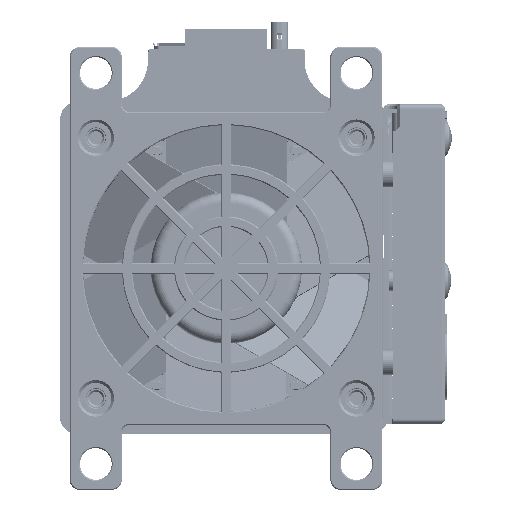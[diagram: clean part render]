
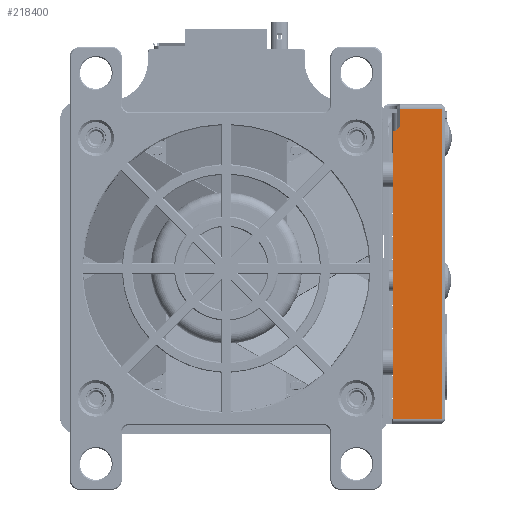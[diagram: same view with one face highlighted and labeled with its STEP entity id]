
A CAD part, left-side view. The second image highlights one B-rep face of the part: STEP entity #218400.
In plain terms, the highlighted planar face has unit normal (-1, 0, 0) as drawn and (0, 0, 1) by its records, which use the part's own axes.
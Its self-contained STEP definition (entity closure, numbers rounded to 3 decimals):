
#14535=PLANE('',#242739);
#27348=FACE_OUTER_BOUND('',#41255,.T.);
#41255=EDGE_LOOP('',(#196530,#196531,#196532,#196533,#196534,#196535,#196536));
#57751=LINE('',#437039,#74454);
#57752=LINE('',#437041,#74455);
#57753=LINE('',#437043,#74456);
#57754=LINE('',#437045,#74457);
#57755=LINE('',#437047,#74458);
#57756=LINE('',#437049,#74459);
#57757=LINE('',#437050,#74460);
#74454=VECTOR('',#305692,10.);
#74455=VECTOR('',#305693,10.);
#74456=VECTOR('',#305694,10.);
#74457=VECTOR('',#305695,10.);
#74458=VECTOR('',#305696,10.);
#74459=VECTOR('',#305697,10.);
#74460=VECTOR('',#305698,10.);
#104082=VERTEX_POINT('',#437037);
#104083=VERTEX_POINT('',#437038);
#104084=VERTEX_POINT('',#437040);
#104085=VERTEX_POINT('',#437042);
#104086=VERTEX_POINT('',#437044);
#104087=VERTEX_POINT('',#437046);
#104088=VERTEX_POINT('',#437048);
#135144=EDGE_CURVE('',#104082,#104083,#57751,.T.);
#135145=EDGE_CURVE('',#104084,#104082,#57752,.T.);
#135146=EDGE_CURVE('',#104085,#104084,#57753,.T.);
#135147=EDGE_CURVE('',#104086,#104085,#57754,.T.);
#135148=EDGE_CURVE('',#104087,#104086,#57755,.T.);
#135149=EDGE_CURVE('',#104088,#104087,#57756,.T.);
#135150=EDGE_CURVE('',#104088,#104083,#57757,.T.);
#196530=ORIENTED_EDGE('',*,*,#135144,.F.);
#196531=ORIENTED_EDGE('',*,*,#135145,.F.);
#196532=ORIENTED_EDGE('',*,*,#135146,.F.);
#196533=ORIENTED_EDGE('',*,*,#135147,.F.);
#196534=ORIENTED_EDGE('',*,*,#135148,.F.);
#196535=ORIENTED_EDGE('',*,*,#135149,.F.);
#196536=ORIENTED_EDGE('',*,*,#135150,.T.);
#218400=ADVANCED_FACE('',(#27348),#14535,.T.);
#242739=AXIS2_PLACEMENT_3D('',#437036,#305690,#305691);
#305690=DIRECTION('center_axis',(0.,0.,1.));
#305691=DIRECTION('ref_axis',(1.,0.,0.));
#305692=DIRECTION('',(-1.,0.,0.));
#305693=DIRECTION('',(0.,-1.,0.));
#305694=DIRECTION('',(1.,0.,0.));
#305695=DIRECTION('',(0.,1.,0.));
#305696=DIRECTION('',(-1.,0.,0.));
#305697=DIRECTION('',(-0.707,0.707,0.));
#305698=DIRECTION('',(0.,-1.,0.));
#437036=CARTESIAN_POINT('Origin',(75.709,11.,-88.35));
#437037=CARTESIAN_POINT('',(135.109,3.2,-88.35));
#437038=CARTESIAN_POINT('',(79.843,3.2,-88.35));
#437039=CARTESIAN_POINT('',(97.909,3.2,-88.35));
#437040=CARTESIAN_POINT('',(135.109,12.5,-88.35));
#437041=CARTESIAN_POINT('',(135.109,11.,-88.35));
#437042=CARTESIAN_POINT('',(75.709,12.5,-88.35));
#437043=CARTESIAN_POINT('',(108.85,12.5,-88.35));
#437044=CARTESIAN_POINT('',(75.709,4.5,-88.35));
#437045=CARTESIAN_POINT('',(75.709,11.,-88.35));
#437046=CARTESIAN_POINT('',(79.143,4.5,-88.35));
#437047=CARTESIAN_POINT('',(108.85,4.5,-88.35));
#437048=CARTESIAN_POINT('',(79.843,3.8,-88.35));
#437049=CARTESIAN_POINT('',(76.959,6.683,-88.35));
#437050=CARTESIAN_POINT('',(79.843,3.5,-88.35));
